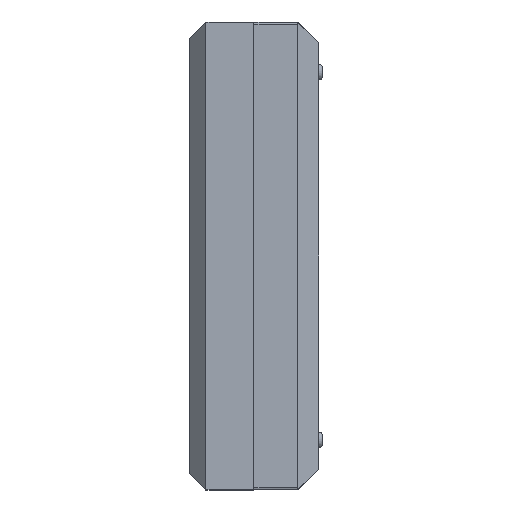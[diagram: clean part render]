
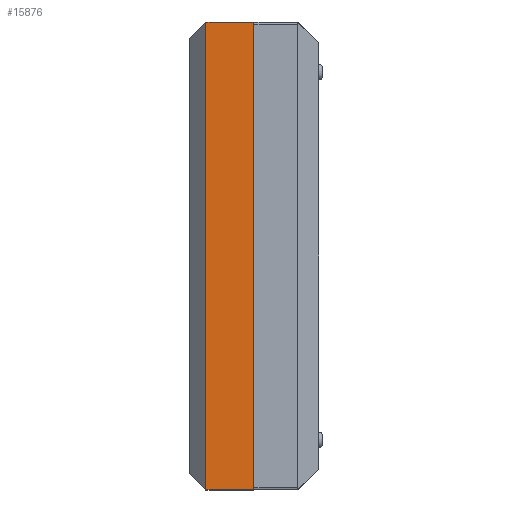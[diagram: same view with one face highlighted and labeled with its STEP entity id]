
A CAD part, left-side view. The second image highlights one B-rep face of the part: STEP entity #15876.
In plain terms, the highlighted planar face has unit normal (-1, 0, 0).
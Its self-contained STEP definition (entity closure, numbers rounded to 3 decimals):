
#411 = ORIENTED_EDGE ( 'NONE', *, *, #5208, .F. ) ;
#733 = LINE ( 'NONE', #3617, #13895 ) ;
#1283 = VERTEX_POINT ( 'NONE', #13020 ) ;
#1603 = EDGE_CURVE ( 'NONE', #9847, #14388, #733, .T. ) ;
#2755 = VERTEX_POINT ( 'NONE', #16036 ) ;
#3062 = CARTESIAN_POINT ( 'NONE',  ( -100., 15.5, 56.1 ) ) ;
#3222 = EDGE_LOOP ( 'NONE', ( #11680, #9117, #13055, #411 ) ) ;
#3617 = CARTESIAN_POINT ( 'NONE',  ( -100., 15.5, 56.1 ) ) ;
#3971 = EDGE_CURVE ( 'NONE', #2755, #1283, #8580, .T. ) ;
#4165 = FACE_OUTER_BOUND ( 'NONE', #3222, .T. ) ;
#4370 = DIRECTION ( 'NONE',  ( 1., 0., 0. ) ) ;
#5208 = EDGE_CURVE ( 'NONE', #2755, #9847, #15313, .T. ) ;
#5283 = DIRECTION ( 'NONE',  ( 0., -1., 0. ) ) ;
#5461 = CARTESIAN_POINT ( 'NONE',  ( -100., 15.5, 56.1 ) ) ;
#6183 = DIRECTION ( 'NONE',  ( 0., -1., 0. ) ) ;
#8580 = LINE ( 'NONE', #15855, #15629 ) ;
#9117 = ORIENTED_EDGE ( 'NONE', *, *, #14185, .T. ) ;
#9591 = CARTESIAN_POINT ( 'NONE',  ( -100., 4., 56.1 ) ) ;
#9847 = VERTEX_POINT ( 'NONE', #16927 ) ;
#10747 = DIRECTION ( 'NONE',  ( 0., 0., 1. ) ) ;
#11426 = VECTOR ( 'NONE', #10747, 1000. ) ;
#11680 = ORIENTED_EDGE ( 'NONE', *, *, #3971, .T. ) ;
#13020 = CARTESIAN_POINT ( 'NONE',  ( -100., 4., -56.1 ) ) ;
#13055 = ORIENTED_EDGE ( 'NONE', *, *, #1603, .F. ) ;
#13074 = CARTESIAN_POINT ( 'NONE',  ( -100., 4., 56.1 ) ) ;
#13586 = DIRECTION ( 'NONE',  ( 0., 0., -1. ) ) ;
#13895 = VECTOR ( 'NONE', #6183, 1000. ) ;
#14185 = EDGE_CURVE ( 'NONE', #1283, #14388, #15121, .T. ) ;
#14311 = VECTOR ( 'NONE', #14374, 1000. ) ;
#14374 = DIRECTION ( 'NONE',  ( 0., 0., 1. ) ) ;
#14388 = VERTEX_POINT ( 'NONE', #9591 ) ;
#14679 = AXIS2_PLACEMENT_3D ( 'NONE', #3062, #4370, #13586 ) ;
#14863 = PLANE ( 'NONE',  #14679 ) ;
#15121 = LINE ( 'NONE', #13074, #14311 ) ;
#15313 = LINE ( 'NONE', #5461, #11426 ) ;
#15629 = VECTOR ( 'NONE', #5283, 1000. ) ;
#15855 = CARTESIAN_POINT ( 'NONE',  ( -100., 15.5, -56.1 ) ) ;
#15876 = ADVANCED_FACE ( 'NONE', ( #4165 ), #14863, .F. ) ;
#16036 = CARTESIAN_POINT ( 'NONE',  ( -100., 15.5, -56.1 ) ) ;
#16927 = CARTESIAN_POINT ( 'NONE',  ( -100., 15.5, 56.1 ) ) ;
